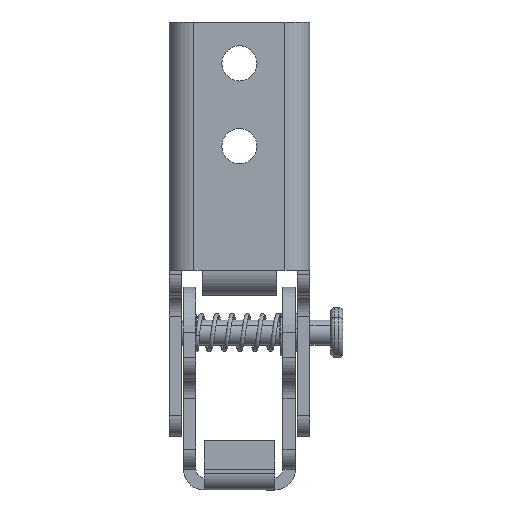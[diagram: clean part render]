
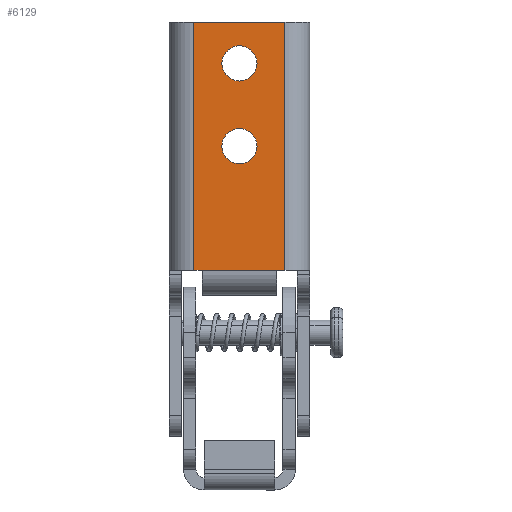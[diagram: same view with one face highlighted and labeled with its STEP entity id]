
A CAD part, front view. The second image highlights one B-rep face of the part: STEP entity #6129.
In plain terms, the highlighted planar face has unit normal (0, -1, 0).
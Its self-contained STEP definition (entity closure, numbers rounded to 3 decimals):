
#521 = VERTEX_POINT ( 'NONE', #13875 ) ;
#710 = ORIENTED_EDGE ( 'NONE', *, *, #7244, .F. ) ;
#713 = LINE ( 'NONE', #13747, #7340 ) ;
#1194 = AXIS2_PLACEMENT_3D ( 'NONE', #2703, #7125, #11335 ) ;
#1317 = LINE ( 'NONE', #5742, #3804 ) ;
#1854 = FACE_OUTER_BOUND ( 'NONE', #12056, .T. ) ;
#2112 = VERTEX_POINT ( 'NONE', #14183 ) ;
#2165 = ORIENTED_EDGE ( 'NONE', *, *, #10020, .T. ) ;
#2279 = AXIS2_PLACEMENT_3D ( 'NONE', #11712, #7512, #9620 ) ;
#2456 = DIRECTION ( 'NONE',  ( -1., 0., 0. ) ) ;
#2647 = DIRECTION ( 'NONE',  ( 1., 0., 0. ) ) ;
#2664 = DIRECTION ( 'NONE',  ( 1., 0., 0. ) ) ;
#2703 = CARTESIAN_POINT ( 'NONE',  ( 14., -3., 90. ) ) ;
#2755 = ORIENTED_EDGE ( 'NONE', *, *, #3682, .F. ) ;
#3171 = EDGE_CURVE ( 'NONE', #2112, #5082, #713, .T. ) ;
#3328 = LINE ( 'NONE', #7762, #13015 ) ;
#3381 = EDGE_CURVE ( 'NONE', #4751, #12404, #9698, .T. ) ;
#3518 = CIRCLE ( 'NONE', #1194, 4.25 ) ;
#3572 = CARTESIAN_POINT ( 'NONE',  ( 14., -3., 94.25 ) ) ;
#3659 = EDGE_CURVE ( 'NONE', #13051, #14006, #4304, .T. ) ;
#3665 = DIRECTION ( 'NONE',  ( 0., 0., 1. ) ) ;
#3676 = DIRECTION ( 'NONE',  ( 0., -1., 0. ) ) ;
#3682 = EDGE_CURVE ( 'NONE', #4693, #4751, #7221, .T. ) ;
#3755 = CARTESIAN_POINT ( 'NONE',  ( 5., -3., 40. ) ) ;
#3804 = VECTOR ( 'NONE', #12421, 1000. ) ;
#3844 = CARTESIAN_POINT ( 'NONE',  ( 3., -3., 100. ) ) ;
#4304 = CIRCLE ( 'NONE', #13326, 4.25 ) ;
#4525 = ORIENTED_EDGE ( 'NONE', *, *, #9976, .F. ) ;
#4693 = VERTEX_POINT ( 'NONE', #3844 ) ;
#4751 = VERTEX_POINT ( 'NONE', #13839 ) ;
#4900 = CARTESIAN_POINT ( 'NONE',  ( 14., -3., 70. ) ) ;
#5028 = DIRECTION ( 'NONE',  ( 0., 0., 1. ) ) ;
#5082 = VERTEX_POINT ( 'NONE', #3755 ) ;
#5370 = VECTOR ( 'NONE', #6876, 1000. ) ;
#5484 = EDGE_LOOP ( 'NONE', ( #710, #4525 ) ) ;
#5713 = LINE ( 'NONE', #9132, #5370 ) ;
#5742 = CARTESIAN_POINT ( 'NONE',  ( 31., -3., 40. ) ) ;
#5845 = CARTESIAN_POINT ( 'NONE',  ( 14., -3., 90. ) ) ;
#6129 = ADVANCED_FACE ( 'NONE', ( #7585, #12874, #1854 ), #8540, .F. ) ;
#6340 = EDGE_CURVE ( 'NONE', #14006, #13051, #6440, .T. ) ;
#6419 = DIRECTION ( 'NONE',  ( 0., 0., -1. ) ) ;
#6440 = CIRCLE ( 'NONE', #10153, 4.25 ) ;
#6876 = DIRECTION ( 'NONE',  ( 0., 0., -1. ) ) ;
#7125 = DIRECTION ( 'NONE',  ( 0., -1., 0. ) ) ;
#7221 = LINE ( 'NONE', #13587, #8478 ) ;
#7244 = EDGE_CURVE ( 'NONE', #8731, #9949, #8578, .T. ) ;
#7340 = VECTOR ( 'NONE', #2664, 1000. ) ;
#7512 = DIRECTION ( 'NONE',  ( 0., 1., 0. ) ) ;
#7585 = FACE_BOUND ( 'NONE', #5484, .T. ) ;
#7762 = CARTESIAN_POINT ( 'NONE',  ( 31., -3., 40. ) ) ;
#8113 = DIRECTION ( 'NONE',  ( 0., 0., 1. ) ) ;
#8286 = ORIENTED_EDGE ( 'NONE', *, *, #3659, .F. ) ;
#8478 = VECTOR ( 'NONE', #2647, 1000. ) ;
#8540 = PLANE ( 'NONE',  #2279 ) ;
#8578 = CIRCLE ( 'NONE', #9956, 4.25 ) ;
#8731 = VERTEX_POINT ( 'NONE', #13208 ) ;
#9132 = CARTESIAN_POINT ( 'NONE',  ( 3., -3., 100. ) ) ;
#9405 = VECTOR ( 'NONE', #6419, 1000. ) ;
#9506 = CARTESIAN_POINT ( 'NONE',  ( 14., -3., 74.25 ) ) ;
#9620 = DIRECTION ( 'NONE',  ( 0., 0., 1. ) ) ;
#9698 = LINE ( 'NONE', #13171, #9405 ) ;
#9949 = VERTEX_POINT ( 'NONE', #3572 ) ;
#9956 = AXIS2_PLACEMENT_3D ( 'NONE', #5845, #3676, #8113 ) ;
#9976 = EDGE_CURVE ( 'NONE', #9949, #8731, #3518, .T. ) ;
#10020 = EDGE_CURVE ( 'NONE', #4693, #2112, #5713, .T. ) ;
#10034 = EDGE_CURVE ( 'NONE', #521, #5082, #3328, .T. ) ;
#10153 = AXIS2_PLACEMENT_3D ( 'NONE', #11629, #13005, #5028 ) ;
#10530 = ORIENTED_EDGE ( 'NONE', *, *, #3171, .T. ) ;
#11038 = CARTESIAN_POINT ( 'NONE',  ( 25., -3., 40. ) ) ;
#11239 = ORIENTED_EDGE ( 'NONE', *, *, #10034, .F. ) ;
#11335 = DIRECTION ( 'NONE',  ( 0., 0., 1. ) ) ;
#11566 = DIRECTION ( 'NONE',  ( 0., -1., 0. ) ) ;
#11629 = CARTESIAN_POINT ( 'NONE',  ( 14., -3., 70. ) ) ;
#11712 = CARTESIAN_POINT ( 'NONE',  ( 0., -3., 100. ) ) ;
#12056 = EDGE_LOOP ( 'NONE', ( #2165, #10530, #11239, #12977, #13780, #2755 ) ) ;
#12175 = EDGE_LOOP ( 'NONE', ( #13763, #8286 ) ) ;
#12404 = VERTEX_POINT ( 'NONE', #11038 ) ;
#12421 = DIRECTION ( 'NONE',  ( -1., 0., 0. ) ) ;
#12555 = EDGE_CURVE ( 'NONE', #12404, #521, #1317, .T. ) ;
#12570 = CARTESIAN_POINT ( 'NONE',  ( 14., -3., 65.75 ) ) ;
#12874 = FACE_BOUND ( 'NONE', #12175, .T. ) ;
#12977 = ORIENTED_EDGE ( 'NONE', *, *, #12555, .F. ) ;
#13005 = DIRECTION ( 'NONE',  ( 0., -1., 0. ) ) ;
#13015 = VECTOR ( 'NONE', #2456, 1000. ) ;
#13051 = VERTEX_POINT ( 'NONE', #9506 ) ;
#13171 = CARTESIAN_POINT ( 'NONE',  ( 25., -3., 100. ) ) ;
#13208 = CARTESIAN_POINT ( 'NONE',  ( 14., -3., 85.75 ) ) ;
#13326 = AXIS2_PLACEMENT_3D ( 'NONE', #4900, #11566, #3665 ) ;
#13587 = CARTESIAN_POINT ( 'NONE',  ( 0., -3., 100. ) ) ;
#13747 = CARTESIAN_POINT ( 'NONE',  ( 3., -3., 40. ) ) ;
#13763 = ORIENTED_EDGE ( 'NONE', *, *, #6340, .F. ) ;
#13780 = ORIENTED_EDGE ( 'NONE', *, *, #3381, .F. ) ;
#13839 = CARTESIAN_POINT ( 'NONE',  ( 25., -3., 100. ) ) ;
#13875 = CARTESIAN_POINT ( 'NONE',  ( 23., -3., 40. ) ) ;
#14006 = VERTEX_POINT ( 'NONE', #12570 ) ;
#14183 = CARTESIAN_POINT ( 'NONE',  ( 3., -3., 40. ) ) ;
